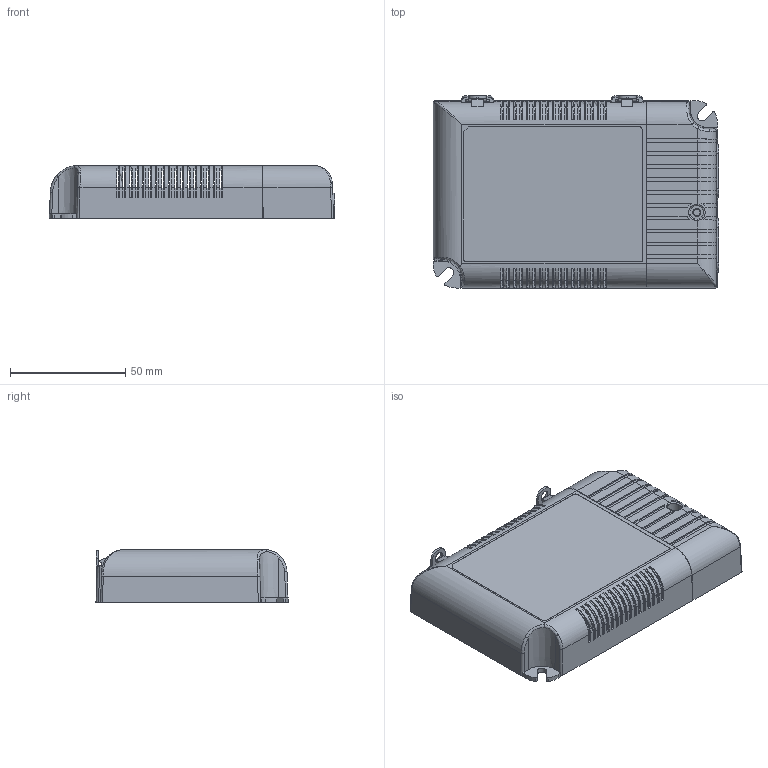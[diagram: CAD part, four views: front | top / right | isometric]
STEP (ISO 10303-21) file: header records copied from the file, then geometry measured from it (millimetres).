
FILE_DESCRIPTION((''),'2;1');
FILE_NAME('W:\mechanical\機構工程圖\3D圖檔\3D Outline-2020\已完成待審核\LCM-40,60BLE.stp','2020-06-08T17:27:52',('shirley'),(''),'Autodesk Inventor 2010','Autodesk Inventor 2010','');
FILE_SCHEMA(('AUTOMOTIVE_DESIGN { 1 0 10303 214 1 1 1 1 }'));
Length unit declared in the file: millimetre
Products named in the file (3): lcm-60; LCM60B-T; LCM60d-T
Assembly tree (2 placements, depth 2):
  lcm-60
    LCM60B-T
    LCM60d-T
Bounding box: 124 x 83.5 x 23 mm (x, y, z)
Volume: 42619.1 mm3; surface area: 67579.4 mm2
Topology: 2 solids, 2 shells, 1509 faces, 4598 edges, 3014 vertices
Faces by surface type: plane 1156, cylinder 326, bspline 13, torus 8, cone 6
Full cylindrical faces by diameter (mm): 3 x2, 3.4 x1, 3.8 x1, 4 x2, 6 x1, 6.4 x1, 6.8 x1
Entity records: 53329 total; most frequent: CARTESIAN_POINT 11415, ORIENTED_EDGE 9164, DIRECTION 8352, EDGE_CURVE 4582, VECTOR 3674, LINE 3674, VERTEX_POINT 3011, AXIS2_PLACEMENT_3D 2339
